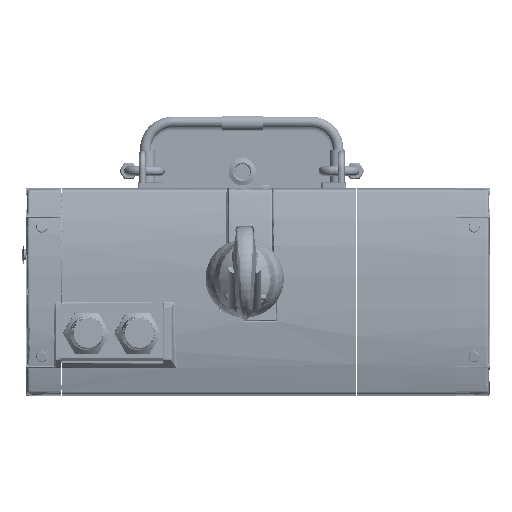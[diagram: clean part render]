
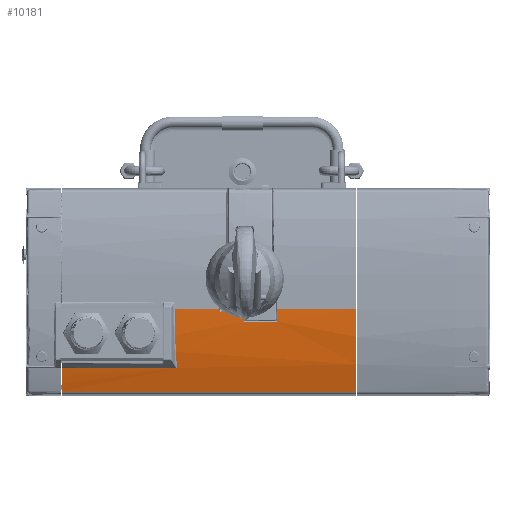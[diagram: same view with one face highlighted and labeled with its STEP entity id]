
A CAD part, top view. The second image highlights one B-rep face of the part: STEP entity #10181.
In plain terms, the highlighted cylindrical face has radius 200 mm (diameter 400 mm), a partial arc.
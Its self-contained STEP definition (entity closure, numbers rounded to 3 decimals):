
#2107=ELLIPSE('',#89558,212.96,200.);
#3333=B_SPLINE_CURVE_WITH_KNOTS('',3,(#141679,#141680,#141681,#141682,#141683,
#141684,#141685,#141686,#141687,#141688,#141689,#141690,#141691),
 .UNSPECIFIED.,.F.,.F.,(4,3,3,3,4),(0.,0.122,0.5,
0.752,1.),.UNSPECIFIED.);
#3334=B_SPLINE_CURVE_WITH_KNOTS('',3,(#141695,#141696,#141697,#141698,#141699,
#141700,#141701),.UNSPECIFIED.,.F.,.F.,(4,3,4),(0.,0.528,1.),
 .UNSPECIFIED.);
#3335=B_SPLINE_CURVE_WITH_KNOTS('',3,(#141705,#141706,#141707,#141708,#141709,
#141710,#141711,#141712,#141713,#141714,#141715,#141716,#141717,#141718,
#141719,#141720),.UNSPECIFIED.,.F.,.F.,(4,3,3,3,3,4),(0.,0.215,
0.43,0.645,0.86,1.),.UNSPECIFIED.);
#3336=B_SPLINE_CURVE_WITH_KNOTS('',3,(#141722,#141723,#141724,#141725,#141726,
#141727,#141728),.UNSPECIFIED.,.F.,.F.,(4,3,4),(0.,0.502,1.),
 .UNSPECIFIED.);
#8238=CYLINDRICAL_SURFACE('',#89560,200.);
#10181=ADVANCED_FACE('',(#17107),#8238,.T.);
#17107=FACE_OUTER_BOUND('',#22723,.T.);
#22723=EDGE_LOOP('',(#38614,#38615,#38616,#38617,#38618,#38619,#38620,#38621,
#38622,#38623,#38624,#38625,#38626));
#28798=LINE('',#141661,#32920);
#28801=LINE('',#141672,#32923);
#28802=LINE('',#141677,#32924);
#28803=LINE('',#141693,#32925);
#28804=LINE('',#141703,#32926);
#28805=LINE('',#141731,#32927);
#32920=VECTOR('',#100849,1.);
#32923=VECTOR('',#100854,1.);
#32924=VECTOR('',#100857,1.);
#32925=VECTOR('',#100858,1.);
#32926=VECTOR('',#100859,1.);
#32927=VECTOR('',#100862,1.);
#38614=ORIENTED_EDGE('',*,*,#71778,.T.);
#38615=ORIENTED_EDGE('',*,*,#71779,.T.);
#38616=ORIENTED_EDGE('',*,*,#71780,.F.);
#38617=ORIENTED_EDGE('',*,*,#71781,.T.);
#38618=ORIENTED_EDGE('',*,*,#71782,.T.);
#38619=ORIENTED_EDGE('',*,*,#71783,.T.);
#38620=ORIENTED_EDGE('',*,*,#71784,.T.);
#38621=ORIENTED_EDGE('',*,*,#71785,.T.);
#38622=ORIENTED_EDGE('',*,*,#71786,.T.);
#38623=ORIENTED_EDGE('',*,*,#71774,.F.);
#38624=ORIENTED_EDGE('',*,*,#71787,.T.);
#38625=ORIENTED_EDGE('',*,*,#71788,.T.);
#38626=ORIENTED_EDGE('',*,*,#71789,.T.);
#63668=VERTEX_POINT('',#141660);
#63669=VERTEX_POINT('',#141662);
#63672=VERTEX_POINT('',#141673);
#63673=VERTEX_POINT('',#141674);
#63674=VERTEX_POINT('',#141676);
#63675=VERTEX_POINT('',#141678);
#63676=VERTEX_POINT('',#141692);
#63677=VERTEX_POINT('',#141694);
#63678=VERTEX_POINT('',#141702);
#63679=VERTEX_POINT('',#141704);
#63680=VERTEX_POINT('',#141721);
#63681=VERTEX_POINT('',#141730);
#63682=VERTEX_POINT('',#141732);
#71774=EDGE_CURVE('',#63668,#63669,#28798,.T.);
#71778=EDGE_CURVE('',#63672,#63673,#28801,.T.);
#71779=EDGE_CURVE('',#63673,#63674,#84236,.T.);
#71780=EDGE_CURVE('',#63675,#63674,#28802,.T.);
#71781=EDGE_CURVE('',#63675,#63676,#3333,.T.);
#71782=EDGE_CURVE('',#63676,#63677,#28803,.T.);
#71783=EDGE_CURVE('',#63677,#63678,#3334,.T.);
#71784=EDGE_CURVE('',#63678,#63679,#28804,.T.);
#71785=EDGE_CURVE('',#63679,#63680,#3335,.T.);
#71786=EDGE_CURVE('',#63680,#63669,#3336,.T.);
#71787=EDGE_CURVE('',#63668,#63681,#2107,.T.);
#71788=EDGE_CURVE('',#63681,#63682,#28805,.T.);
#71789=EDGE_CURVE('',#63682,#63672,#84237,.T.);
#84236=CIRCLE('',#89557,200.);
#84237=CIRCLE('',#89559,200.);
#89557=AXIS2_PLACEMENT_3D('',#141675,#100855,#100856);
#89558=AXIS2_PLACEMENT_3D('',#141729,#100860,#100861);
#89559=AXIS2_PLACEMENT_3D('',#141733,#100863,#100864);
#89560=AXIS2_PLACEMENT_3D('',#141734,#100865,#100866);
#100849=DIRECTION('',(1.,0.,0.));
#100854=DIRECTION('',(1.,0.,0.));
#100855=DIRECTION('',(-1.,0.,0.));
#100856=DIRECTION('',(0.,0.,-1.));
#100857=DIRECTION('',(1.,0.,0.));
#100858=DIRECTION('',(-1.,0.,0.));
#100859=DIRECTION('',(-1.,0.,0.));
#100860=DIRECTION('',(0.939,0.,0.344));
#100861=DIRECTION('',(-0.344,0.,0.939));
#100862=DIRECTION('',(-1.,0.,0.));
#100863=DIRECTION('',(1.,0.,0.));
#100864=DIRECTION('',(0.,0.,-1.));
#100865=DIRECTION('',(-1.,0.,0.));
#100866=DIRECTION('',(0.,0.,-1.));
#141660=CARTESIAN_POINT('',(-51.48,-40.,50.));
#141661=CARTESIAN_POINT('',(82.5,-40.,50.));
#141662=CARTESIAN_POINT('',(-18.697,-40.,50.));
#141672=CARTESIAN_POINT('',(82.5,-100.928,40.493));
#141673=CARTESIAN_POINT('',(-134.5,-100.928,40.493));
#141674=CARTESIAN_POINT('',(82.5,-100.928,40.493));
#141675=CARTESIAN_POINT('',(82.5,-40.,-150.));
#141676=CARTESIAN_POINT('',(82.5,-40.,50.));
#141677=CARTESIAN_POINT('',(82.5,-40.,50.));
#141678=CARTESIAN_POINT('',(23.697,-40.,50.));
#141679=CARTESIAN_POINT('',(23.697,-40.,50.));
#141680=CARTESIAN_POINT('',(23.697,-40.382,50.));
#141681=CARTESIAN_POINT('',(23.697,-40.764,49.999));
#141682=CARTESIAN_POINT('',(23.697,-41.147,49.997));
#141683=CARTESIAN_POINT('',(23.697,-42.333,49.99));
#141684=CARTESIAN_POINT('',(23.697,-43.519,49.973));
#141685=CARTESIAN_POINT('',(23.697,-44.704,49.945));
#141686=CARTESIAN_POINT('',(23.697,-45.494,49.926));
#141687=CARTESIAN_POINT('',(23.697,-46.283,49.903));
#141688=CARTESIAN_POINT('',(23.697,-47.073,49.875));
#141689=CARTESIAN_POINT('',(23.697,-47.851,49.847));
#141690=CARTESIAN_POINT('',(23.697,-48.628,49.815));
#141691=CARTESIAN_POINT('',(23.697,-49.406,49.779));
#141692=CARTESIAN_POINT('',(23.697,-49.406,49.779));
#141693=CARTESIAN_POINT('',(82.5,-49.406,49.779));
#141694=CARTESIAN_POINT('',(-0.697,-49.406,49.779));
#141695=CARTESIAN_POINT('',(-0.697,-49.406,49.779));
#141696=CARTESIAN_POINT('',(-0.697,-48.138,49.838));
#141697=CARTESIAN_POINT('',(-0.697,-46.87,49.886));
#141698=CARTESIAN_POINT('',(-0.697,-45.601,49.922));
#141699=CARTESIAN_POINT('',(-0.697,-44.467,49.953));
#141700=CARTESIAN_POINT('',(-0.697,-43.333,49.975));
#141701=CARTESIAN_POINT('',(-0.697,-42.199,49.988));
#141702=CARTESIAN_POINT('',(-0.697,-42.199,49.988));
#141703=CARTESIAN_POINT('',(82.5,-42.199,49.988));
#141704=CARTESIAN_POINT('',(-17.497,-42.199,49.988));
#141705=CARTESIAN_POINT('',(-17.497,-42.199,49.988));
#141706=CARTESIAN_POINT('',(-17.631,-42.199,49.988));
#141707=CARTESIAN_POINT('',(-17.767,-42.175,49.988));
#141708=CARTESIAN_POINT('',(-17.894,-42.131,49.989));
#141709=CARTESIAN_POINT('',(-18.021,-42.086,49.989));
#141710=CARTESIAN_POINT('',(-18.141,-42.019,49.99));
#141711=CARTESIAN_POINT('',(-18.246,-41.935,49.991));
#141712=CARTESIAN_POINT('',(-18.351,-41.851,49.991));
#141713=CARTESIAN_POINT('',(-18.443,-41.748,49.992));
#141714=CARTESIAN_POINT('',(-18.514,-41.634,49.993));
#141715=CARTESIAN_POINT('',(-18.585,-41.52,49.994));
#141716=CARTESIAN_POINT('',(-18.638,-41.392,49.995));
#141717=CARTESIAN_POINT('',(-18.667,-41.261,49.996));
#141718=CARTESIAN_POINT('',(-18.687,-41.175,49.997));
#141719=CARTESIAN_POINT('',(-18.697,-41.086,49.997));
#141720=CARTESIAN_POINT('',(-18.697,-40.998,49.998));
#141721=CARTESIAN_POINT('',(-18.697,-40.998,49.998));
#141722=CARTESIAN_POINT('',(-18.697,-40.998,49.998));
#141723=CARTESIAN_POINT('',(-18.697,-40.831,49.998));
#141724=CARTESIAN_POINT('',(-18.697,-40.664,49.999));
#141725=CARTESIAN_POINT('',(-18.697,-40.497,49.999));
#141726=CARTESIAN_POINT('',(-18.697,-40.331,50.));
#141727=CARTESIAN_POINT('',(-18.697,-40.166,50.));
#141728=CARTESIAN_POINT('',(-18.697,-40.,50.));
#141729=CARTESIAN_POINT('',(21.678,-40.,-150.));
#141730=CARTESIAN_POINT('',(-49.708,-83.746,45.157));
#141731=CARTESIAN_POINT('',(82.5,-83.746,45.157));
#141732=CARTESIAN_POINT('',(-134.5,-83.746,45.157));
#141733=CARTESIAN_POINT('',(-134.5,-40.,-150.));
#141734=CARTESIAN_POINT('',(82.5,-40.,-150.));
